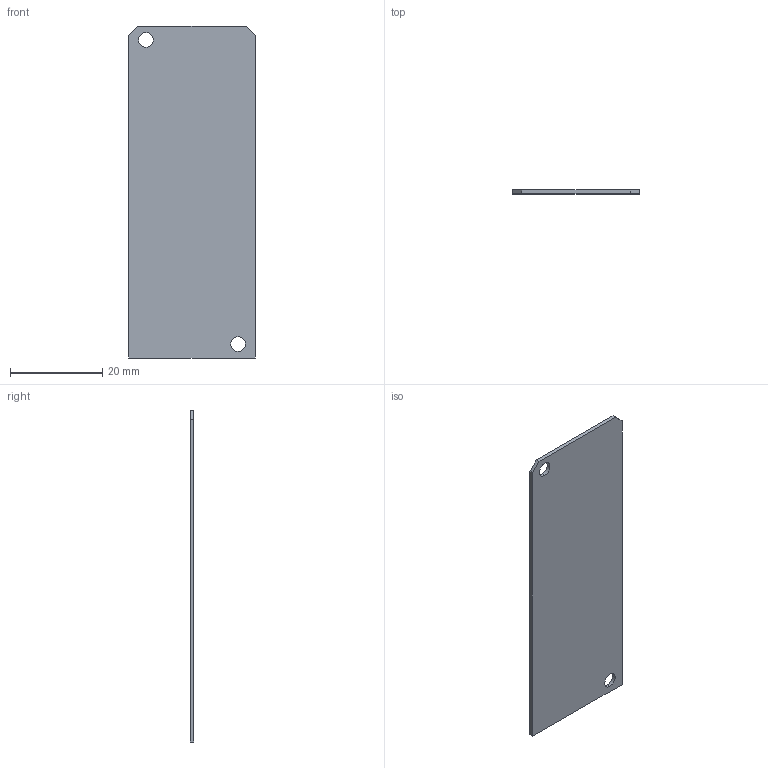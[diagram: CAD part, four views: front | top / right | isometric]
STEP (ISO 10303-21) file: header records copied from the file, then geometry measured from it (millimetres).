
FILE_DESCRIPTION (( 'STEP AP214' ), '1' );
FILE_NAME ('MLBX2-00-060-2-POLARIZER-H.STEP', '2021-11-05T07:13:35', ( '' ), ( '' ), 'SwSTEP 2.0', 'SolidWorks 2021', '' );
FILE_SCHEMA (( 'AUTOMOTIVE_DESIGN' ));
Length unit declared in the file: millimetre
Products named in the file (1): MLBX2-00-060-2-POLARIZER-H
Bounding box: 27.5 x 0.8 x 72 mm (x, y, z)
Volume: 1567.9 mm3; surface area: 4093.2 mm2
Topology: 1 solids, 1 shells, 12 faces, 30 edges, 20 vertices
Faces by surface type: plane 8, cylinder 4
Entity records: 470 total; most frequent: DIRECTION 64, CARTESIAN_POINT 63, ORIENTED_EDGE 60, EDGE_CURVE 30, VECTOR 22, LINE 22, AXIS2_PLACEMENT_3D 21, VERTEX_POINT 20
